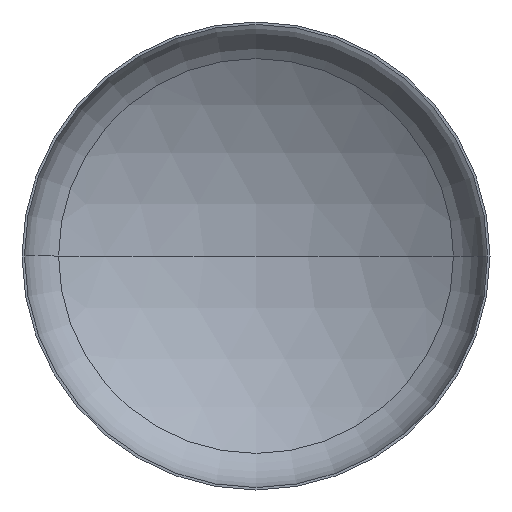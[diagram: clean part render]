
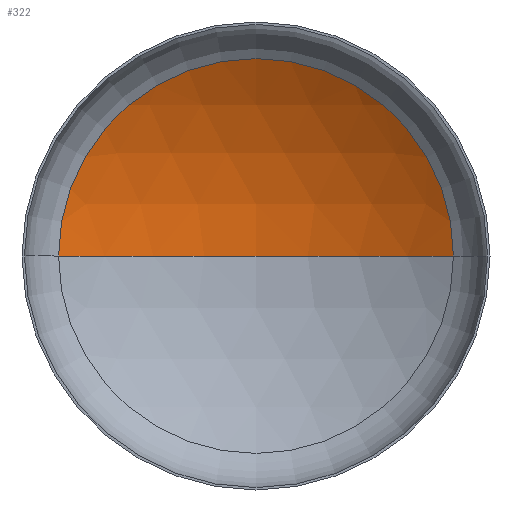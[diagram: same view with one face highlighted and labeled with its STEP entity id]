
A CAD part, front view. The second image highlights one B-rep face of the part: STEP entity #322.
In plain terms, the highlighted spherical face has radius 2880 mm.
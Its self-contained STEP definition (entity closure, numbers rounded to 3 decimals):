
#14 = EDGE_LOOP ( 'NONE', ( #110, #103, #68 ) ) ;
#37 = AXIS2_PLACEMENT_3D ( 'NONE', #195, #169, #311 ) ;
#43 = DIRECTION ( 'NONE',  ( 1., 0., 0. ) ) ;
#56 = VERTEX_POINT ( 'NONE', #259 ) ;
#59 = AXIS2_PLACEMENT_3D ( 'NONE', #264, #263, #261 ) ;
#62 = AXIS2_PLACEMENT_3D ( 'NONE', #212, #214, #229 ) ;
#65 = AXIS2_PLACEMENT_3D ( 'NONE', #374, #266, #43 ) ;
#68 = ORIENTED_EDGE ( 'NONE', *, *, #158, .T. ) ;
#96 = VERTEX_POINT ( 'NONE', #254 ) ;
#103 = ORIENTED_EDGE ( 'NONE', *, *, #173, .T. ) ;
#110 = ORIENTED_EDGE ( 'NONE', *, *, #179, .F. ) ;
#158 = EDGE_CURVE ( 'NONE', #96, #56, #379, .T. ) ;
#169 = DIRECTION ( 'NONE',  ( 0., 0., -1. ) ) ;
#171 = SPHERICAL_SURFACE ( 'NONE', #37, 2880. ) ;
#173 = EDGE_CURVE ( 'NONE', #225, #96, #210, .T. ) ;
#179 = EDGE_CURVE ( 'NONE', #225, #56, #258, .T. ) ;
#195 = CARTESIAN_POINT ( 'NONE',  ( 0., -1915.487, 0. ) ) ;
#210 = CIRCLE ( 'NONE', #62, 2880. ) ;
#212 = CARTESIAN_POINT ( 'NONE',  ( 0., -1915.487, 0. ) ) ;
#214 = DIRECTION ( 'NONE',  ( 0., 0., -1. ) ) ;
#225 = VERTEX_POINT ( 'NONE', #276 ) ;
#229 = DIRECTION ( 'NONE',  ( -1., 0., 0. ) ) ;
#254 = CARTESIAN_POINT ( 'NONE',  ( 1518.658, 531.568, 0. ) ) ;
#258 = CIRCLE ( 'NONE', #59, 2880. ) ;
#259 = CARTESIAN_POINT ( 'NONE',  ( -1518.658, 531.568, 0. ) ) ;
#261 = DIRECTION ( 'NONE',  ( 1., 0., 0. ) ) ;
#263 = DIRECTION ( 'NONE',  ( 0., 0., 1. ) ) ;
#264 = CARTESIAN_POINT ( 'NONE',  ( 0., -1915.487, 0. ) ) ;
#266 = DIRECTION ( 'NONE',  ( 0., -1., 0. ) ) ;
#276 = CARTESIAN_POINT ( 'NONE',  ( 0., 964.513, 0. ) ) ;
#311 = DIRECTION ( 'NONE',  ( -1., 0., 0. ) ) ;
#322 = ADVANCED_FACE ( 'NONE', ( #409 ), #171, .F. ) ;
#374 = CARTESIAN_POINT ( 'NONE',  ( 0., 531.568, 0. ) ) ;
#379 = CIRCLE ( 'NONE', #65, 1518.658 ) ;
#409 = FACE_OUTER_BOUND ( 'NONE', #14, .T. ) ;
